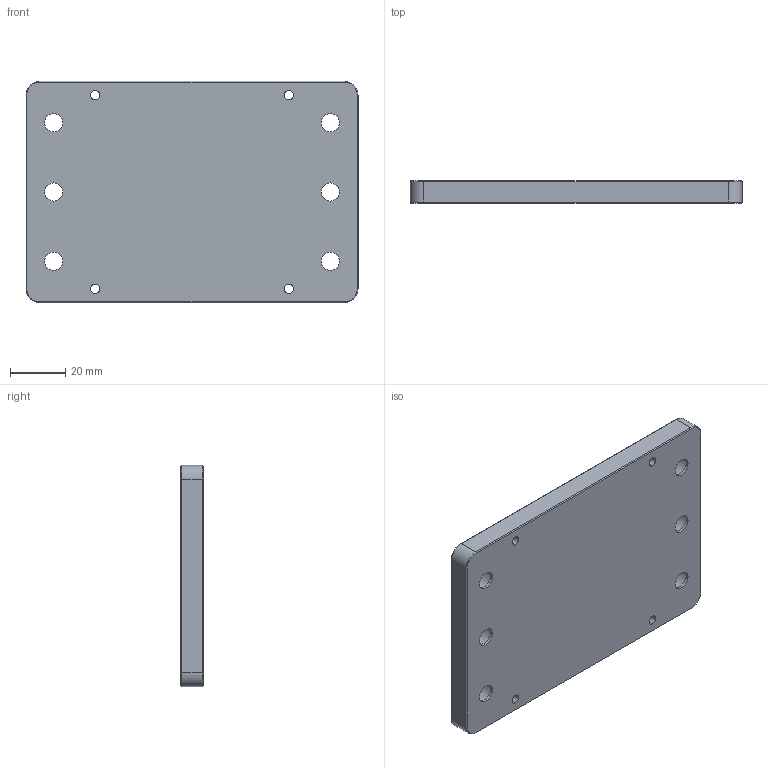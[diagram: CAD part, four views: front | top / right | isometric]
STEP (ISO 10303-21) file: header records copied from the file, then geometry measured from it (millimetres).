
FILE_DESCRIPTION (( 'STEP AP214' ), '1' );
FILE_NAME ('2766弇痄怢陔蛌諉.STEP', '2026-10-16T08:46:35', ( '' ), ( '' ), 'SwSTEP 2.0', 'SolidWorks 2024', '' );
FILE_SCHEMA (( 'AUTOMOTIVE_DESIGN' ));
Length unit declared in the file: millimetre
Products named in the file (1): 2766位移台新转接
Bounding box: 120 x 8 x 80 mm (x, y, z)
Volume: 72122.8 mm3; surface area: 23579.2 mm2
Topology: 1 solids, 1 shells, 64 faces, 152 edges, 96 vertices
Faces by surface type: cylinder 36, plane 20, cone 8
Entity records: 1931 total; most frequent: DIRECTION 362, CARTESIAN_POINT 313, ORIENTED_EDGE 304, EDGE_CURVE 152, AXIS2_PLACEMENT_3D 145, VERTEX_POINT 96, EDGE_LOOP 90, CIRCLE 80
